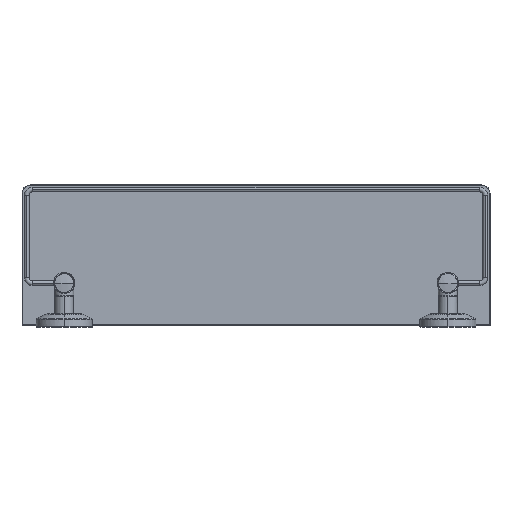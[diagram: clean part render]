
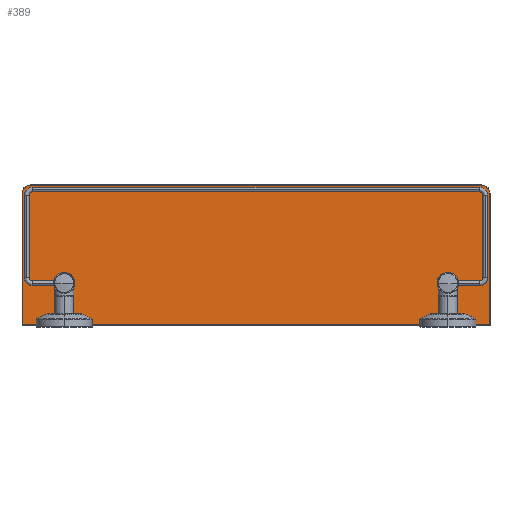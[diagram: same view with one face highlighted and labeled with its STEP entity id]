
A CAD part, top view. The second image highlights one B-rep face of the part: STEP entity #389.
In plain terms, the highlighted planar face has unit normal (0, 0, 1).
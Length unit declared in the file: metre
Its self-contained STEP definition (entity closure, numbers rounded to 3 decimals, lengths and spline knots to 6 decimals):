
#32=VERTEX_POINT('',#33);
#33=CARTESIAN_POINT('',(0.006,0.0329,-0.0631));
#39=EDGE_CURVE('',#40,#32,#42,.T.);
#40=VERTEX_POINT('',#41);
#41=CARTESIAN_POINT('',(-0.006,0.0329,-0.0631));
#42=CIRCLE('',#43,0.006);
#43=AXIS2_PLACEMENT_3D('',#44,#45,#46);
#44=CARTESIAN_POINT('',(0.0,0.0329,-0.0631));
#45=DIRECTION('',(0.0,0.0,-1.0));
#46=DIRECTION('',(-1.0,0.0,0.0));
#74=VERTEX_POINT('',#75);
#75=CARTESIAN_POINT('',(-0.404,0.0329,-0.0631));
#81=EDGE_CURVE('',#82,#74,#84,.T.);
#82=VERTEX_POINT('',#83);
#83=CARTESIAN_POINT('',(-0.416,0.0329,-0.0631));
#84=CIRCLE('',#85,0.006);
#85=AXIS2_PLACEMENT_3D('',#86,#87,#88);
#86=CARTESIAN_POINT('',(-0.41,0.0329,-0.0631));
#87=DIRECTION('',(0.0,0.0,-1.0));
#88=DIRECTION('',(-1.0,0.0,0.0));
#276=CARTESIAN_POINT('',(-0.404,0.0329,-0.0631));
#277=EDGE_CURVE('',#74,#82,#278,.T.);
#278=(B_SPLINE_CURVE(3,(#276,#279,#280,#281),.UNSPECIFIED.,.F.,.U.)B_SPLINE_CURVE_WITH_KNOTS(
  (4,4),(0.0,1.0),.UNSPECIFIED.)BOUNDED_CURVE()CURVE()GEOMETRIC_REPRESENTATION_ITEM(
  )RATIONAL_B_SPLINE_CURVE((1.0,0.333,0.333,1.0)
  )REPRESENTATION_ITEM(''));
#279=CARTESIAN_POINT('',(-0.404,0.0209,-0.0631));
#280=CARTESIAN_POINT('',(-0.416,0.0209,-0.0631));
#281=CARTESIAN_POINT('',(-0.416,0.0329,-0.0631));
#295=CARTESIAN_POINT('',(0.006,0.0329,-0.0631));
#296=EDGE_CURVE('',#32,#40,#297,.T.);
#297=(B_SPLINE_CURVE(3,(#295,#298,#299,#300),.UNSPECIFIED.,.F.,.U.)B_SPLINE_CURVE_WITH_KNOTS(
  (4,4),(0.0,1.0),.UNSPECIFIED.)BOUNDED_CURVE()CURVE()GEOMETRIC_REPRESENTATION_ITEM(
  )RATIONAL_B_SPLINE_CURVE((1.0,0.333,0.333,1.0)
  )REPRESENTATION_ITEM(''));
#298=CARTESIAN_POINT('',(0.006,0.0209,-0.0631));
#299=CARTESIAN_POINT('',(-0.006,0.0209,-0.0631));
#300=CARTESIAN_POINT('',(-0.006,0.0329,-0.0631));
#389=ADVANCED_FACE('',(#395,#447,#451),#390,.F.);
#390=PLANE('',#391);
#391=AXIS2_PLACEMENT_3D('',#392,#393,#394);
#392=CARTESIAN_POINT('',(-0.205,-0.0121,-0.0631));
#393=DIRECTION('',(0.0,0.0,-1.0));
#394=DIRECTION('',(0.0,-1.0,0.0));
#395=FACE_OUTER_BOUND('',#396,.T.);
#396=EDGE_LOOP('',(#397,#407,#415,#423,#432,#440));
#397=ORIENTED_EDGE('',*,*,#398,.T.);
#398=EDGE_CURVE('',#399,#401,#403,.T.);
#399=VERTEX_POINT('',#400);
#400=CARTESIAN_POINT('',(-0.4545,0.1289,-0.0631));
#401=VERTEX_POINT('',#402);
#402=CARTESIAN_POINT('',(-0.4545,-0.0116,-0.0631));
#403=LINE('',#404,#405);
#404=CARTESIAN_POINT('',(-0.4545,-0.0121,-0.0631));
#405=VECTOR('',#406,1.0);
#406=DIRECTION('',(0.0,-1.0,0.0));
#407=ORIENTED_EDGE('',*,*,#408,.T.);
#408=EDGE_CURVE('',#401,#409,#411,.T.);
#409=VERTEX_POINT('',#410);
#410=CARTESIAN_POINT('',(0.0445,-0.0116,-0.0631));
#411=LINE('',#412,#413);
#412=CARTESIAN_POINT('',(-0.205,-0.0116,-0.0631));
#413=VECTOR('',#414,1.0);
#414=DIRECTION('',(1.0,0.0,0.0));
#415=ORIENTED_EDGE('',*,*,#416,.T.);
#416=EDGE_CURVE('',#409,#417,#419,.T.);
#417=VERTEX_POINT('',#418);
#418=CARTESIAN_POINT('',(0.0445,0.1289,-0.0631));
#419=LINE('',#420,#421);
#420=CARTESIAN_POINT('',(0.0445,-0.0121,-0.0631));
#421=VECTOR('',#422,1.0);
#422=DIRECTION('',(0.0,1.0,0.0));
#423=ORIENTED_EDGE('',*,*,#424,.T.);
#424=EDGE_CURVE('',#417,#425,#427,.F.);
#425=VERTEX_POINT('',#426);
#426=CARTESIAN_POINT('',(0.036,0.1374,-0.0631));
#427=CIRCLE('',#428,0.0085);
#428=AXIS2_PLACEMENT_3D('',#429,#430,#431);
#429=CARTESIAN_POINT('',(0.036,0.1289,-0.0631));
#430=DIRECTION('',(0.0,0.0,-1.0));
#431=DIRECTION('',(-1.0,0.0,0.0));
#432=ORIENTED_EDGE('',*,*,#433,.T.);
#433=EDGE_CURVE('',#425,#434,#436,.T.);
#434=VERTEX_POINT('',#435);
#435=CARTESIAN_POINT('',(-0.446,0.1374,-0.0631));
#436=LINE('',#437,#438);
#437=CARTESIAN_POINT('',(-0.205,0.1374,-0.0631));
#438=VECTOR('',#439,1.0);
#439=DIRECTION('',(-1.0,0.0,0.0));
#440=ORIENTED_EDGE('',*,*,#441,.T.);
#441=EDGE_CURVE('',#434,#399,#442,.F.);
#442=CIRCLE('',#443,0.0085);
#443=AXIS2_PLACEMENT_3D('',#444,#445,#446);
#444=CARTESIAN_POINT('',(-0.446,0.1289,-0.0631));
#445=DIRECTION('',(0.0,0.0,-1.0));
#446=DIRECTION('',(-1.0,0.0,0.0));
#447=FACE_BOUND('',#448,.T.);
#448=EDGE_LOOP('',(#449,#450));
#449=ORIENTED_EDGE('',*,*,#39,.T.);
#450=ORIENTED_EDGE('',*,*,#296,.T.);
#451=FACE_BOUND('',#452,.T.);
#452=EDGE_LOOP('',(#453,#454));
#453=ORIENTED_EDGE('',*,*,#81,.T.);
#454=ORIENTED_EDGE('',*,*,#277,.T.);
